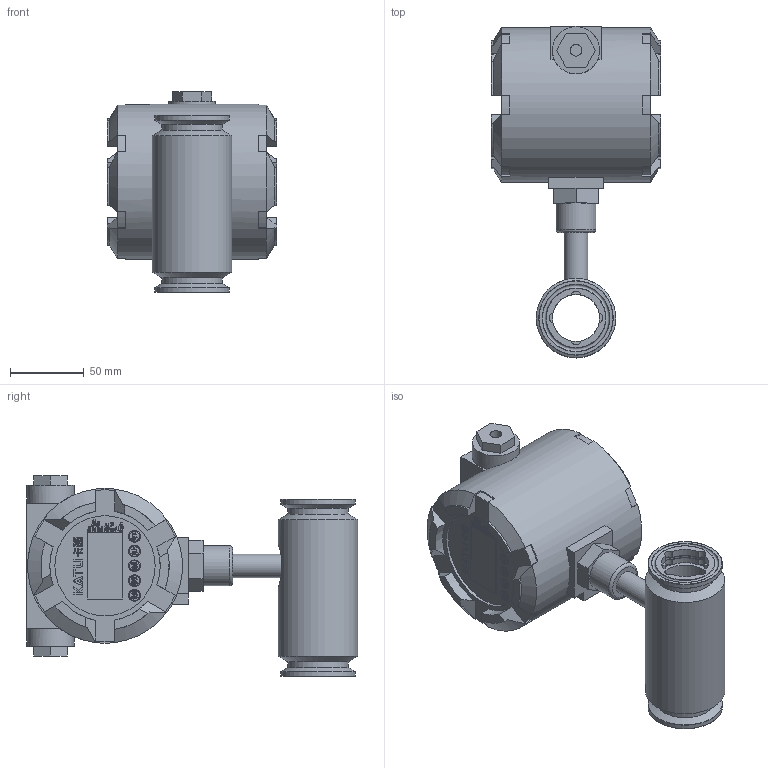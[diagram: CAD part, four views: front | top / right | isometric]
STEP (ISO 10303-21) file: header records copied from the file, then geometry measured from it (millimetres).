
FILE_DESCRIPTION( (''), '2;1');
FILE_NAME( 'QTKC_DN32_tri-clamp_Ex.step', '2024-10-14T11:57:51+08:00', (''), (''), '', '', '');
FILE_SCHEMA (('AUTOMOTIVE_DESIGN { 1 0 10303 214 3 1 1 1 }'));
Length unit declared in the file: millimetre
Products named in the file (1): QTKC DN32_tri-clamp_Ex
Bounding box: 115 x 225 x 136.2 mm (x, y, z)
Volume: 1102837.8 mm3; surface area: 117839.3 mm2
Topology: 4 solids, 4 shells, 1390 faces, 3786 edges, 2510 vertices
Faces by surface type: plane 742, extrusion 504, cylinder 106, cone 20, torus 16, bspline 2
Full cylindrical faces by diameter (mm): 3.3 x1, 8 x2, 16 x1, 16.5 x1, 18.5 x1, 20 x2, 27 x1, 32 x3, 36.5 x2, 38 x2, 41 x2, 50.5 x2, 54 x1, 68 x1, 105 x1
Entity records: 46792 total; most frequent: CARTESIAN_POINT 13788, ORIENTED_EDGE 7442, DIRECTION 5187, EDGE_CURVE 3721, VECTOR 2817, VERTEX_POINT 2490, LINE 2313, B_SPLINE_CURVE_WITH_KNOTS 1612
